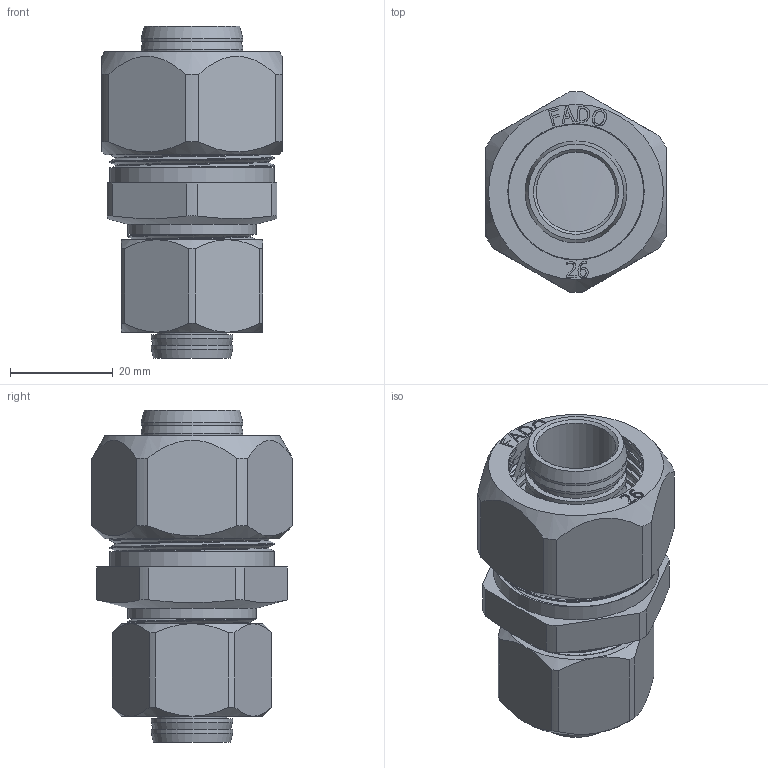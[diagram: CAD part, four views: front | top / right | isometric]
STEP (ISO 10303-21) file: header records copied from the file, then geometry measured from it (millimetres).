
FILE_DESCRIPTION(/* description */ (''),/* implementation_level */ '2;1');
FILE_NAME(/* name */ 'C:\Users\Doom\Desktop\Фадотех\Обжим\RFM05 26X20 30.03.2020\RFM05 26X20 30.03.2020.stp',/* time_stamp */ '2022-06-01T19:55:47+03:00',/* author */ ('Doom'),/* organization */ (''),/* preprocessor_version */ 'ST-DEVELOPER v18',/* originating_system */ 'Autodesk Inventor 2020',/* authorisation */ '');
FILE_SCHEMA (('AUTOMOTIVE_DESIGN { 1 0 10303 214 3 1 1 }'));
Products named in the file (8): RFM05 26X20 30.03.2020; RFM02 20X16 30.03.2020; Olive 20 15.02.2020; Olive 26 15.02.2020; FADO MC Nut-20 15.02.2020; FADO MC Nut-26 15.02.2020; FADO MC Socket-20 15.02.2020; FADO MC Socket-26 15.02.2020
Assembly tree (7 placements, depth 2):
  RFM05 26X20 30.03.2020
    RFM02 20X16 30.03.2020
    Olive 20 15.02.2020
    Olive 26 15.02.2020
    FADO MC Nut-20 15.02.2020
    FADO MC Nut-26 15.02.2020
    FADO MC Socket-20 15.02.2020
    FADO MC Socket-26 15.02.2020
Bounding box: 35 x 39 x 64.5 mm (x, y, z)
Volume: 28406 mm3; surface area: 36625.4 mm2
Topology: 11 solids, 11 shells, 980 faces, 2693 edges, 1814 vertices
Faces by surface type: bspline 518, plane 265, cylinder 152, cone 41, torus 4
Full cylindrical faces by diameter (mm): 11.5 x1, 13.531 x2, 14.5 x1, 15.5 x1, 15.802 x5, 17.391 x1, 17.5 x1, 17.6 x2, 18 x1, 19.8 x5, 20.5 x1, 21 x1, 22.776 x10, 23 x1, 24 x2, 24.1 x1, 24.5 x1, 25 x8, 26.5 x1, 29.776 x2, 30 x1, 30.517 x11, 30.6 x1, 32 x7
Entity records: 56443 total; most frequent: CARTESIAN_POINT 34579, ORIENTED_EDGE 5370, DIRECTION 2953, EDGE_CURVE 2685, VERTEX_POINT 1810, B_SPLINE_CURVE_WITH_KNOTS 1132, EDGE_LOOP 1081, LINE 1007
